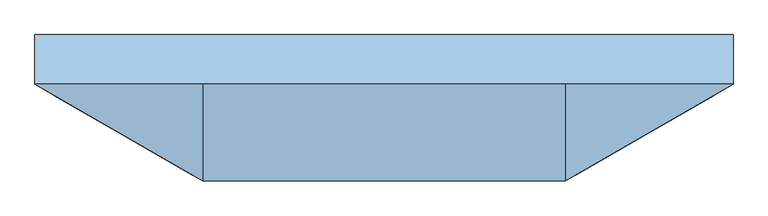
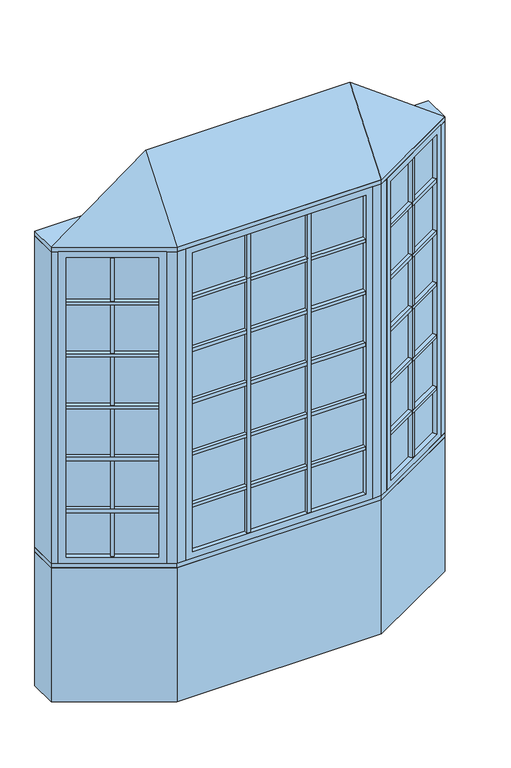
"""IFC4 building model written with IfcOpenShell, lengths in millimetres: window geometry, Pollard_Windows_Tudor Casement Bows and Bays : AML-BAY 30 AFR0618-10-500_GC."""

from ifc_helpers import new_model, si_unit, frame, origin, origin_with_axes, place, context, project, spatial, polyline, outline, extrude, faceted_brep, source, transform, mapped, element, save


def window_b6a6f03b(model_context):
    return source(origin(), model_context, "Body", "SolidModel", [
        extrude(outline(polyline([(632.2305346, -327.3537343), (621.2305346, -308.3011754), (1002.1135794, -88.3982469), (1013.1135794, -107.4508058), (632.2305346, -327.3537343)])), frame((0.0, 0.0, 1690.998), z_axis=(0.0, 0.0, 1.0), x_axis=(1.0, 0.0, 0.0)), (0.0, 0.0, 1.0), 18.0),
        extrude(outline(polyline([(618.6905346, -303.9017664), (607.6905346, -284.8492075), (988.5735794, -64.946279), (999.5735794, -83.9988379), (618.6905346, -303.9017664)])), frame((0.0, 0.0, 1690.998), z_axis=(0.0, 0.0, 1.0), x_axis=(1.0, 0.0, 0.0)), (0.0, 0.0, 1.0), 18.0),
        extrude(outline(polyline([(632.2305346, -327.3537343), (621.2305346, -308.3011754), (1002.1135794, -88.3982469), (1013.1135794, -107.4508058), (632.2305346, -327.3537343)])), frame((0.0, 0.0, 1090.998), z_axis=(0.0, 0.0, 1.0), x_axis=(1.0, 0.0, 0.0)), (0.0, 0.0, 1.0), 18.0),
        extrude(outline(polyline([(618.6905346, -303.9017664), (607.6905346, -284.8492075), (988.5735794, -64.946279), (999.5735794, -83.9988379), (618.6905346, -303.9017664)])), frame((0.0, 0.0, 1090.998), z_axis=(0.0, 0.0, 1.0), x_axis=(1.0, 0.0, 0.0)), (0.0, 0.0, 1.0), 18.0),
        extrude(outline(polyline([(632.2305346, -327.3537343), (621.2305346, -308.3011754), (1002.1135794, -88.3982469), (1013.1135794, -107.4508058), (632.2305346, -327.3537343)])), frame((0.0, 0.0, 1390.998), z_axis=(0.0, 0.0, 1.0), x_axis=(1.0, 0.0, 0.0)), (0.0, 0.0, 1.0), 18.0),
        extrude(outline(polyline([(618.6905346, -303.9017664), (607.6905346, -284.8492075), (988.5735794, -64.946279), (999.5735794, -83.9988379), (618.6905346, -303.9017664)])), frame((0.0, 0.0, 1390.998), z_axis=(0.0, 0.0, 1.0), x_axis=(1.0, 0.0, 0.0)), (0.0, 0.0, 1.0), 18.0),
        extrude(outline(polyline([(632.2305346, -327.3537343), (621.2305346, -308.3011754), (1002.1135794, -88.3982469), (1013.1135794, -107.4508058), (632.2305346, -327.3537343)])), frame((0.0, 0.0, 1990.998), z_axis=(0.0, 0.0, 1.0), x_axis=(1.0, 0.0, 0.0)), (0.0, 0.0, 1.0), 18.0),
        extrude(outline(polyline([(618.6905346, -303.9017664), (607.6905346, -284.8492075), (988.5735794, -64.946279), (999.5735794, -83.9988379), (618.6905346, -303.9017664)])), frame((0.0, 0.0, 1990.998), z_axis=(0.0, 0.0, 1.0), x_axis=(1.0, 0.0, 0.0)), (0.0, 0.0, 1.0), 18.0),
        extrude(outline(polyline([(632.2305346, -327.3537343), (621.2305346, -308.3011754), (1002.1135794, -88.3982469), (1013.1135794, -107.4508058), (632.2305346, -327.3537343)])), frame((0.0, 0.0, 2290.998), z_axis=(0.0, 0.0, 1.0), x_axis=(1.0, 0.0, 0.0)), (0.0, 0.0, 1.0), 18.0),
        extrude(outline(polyline([(618.6905346, -303.9017664), (607.6905346, -284.8492075), (988.5735794, -64.946279), (999.5735794, -83.9988379), (618.6905346, -303.9017664)])), frame((0.0, 0.0, 2290.998), z_axis=(0.0, 0.0, 1.0), x_axis=(1.0, 0.0, 0.0)), (0.0, 0.0, 1.0), 18.0),
        extrude(outline(polyline([(819.4662856, -193.8497112), (830.4662856, -212.9022701), (814.8778284, -221.9022701), (803.8778284, -202.8497112), (819.4662856, -193.8497112)])), frame((0.0, 0.0, 835.8628), z_axis=(0.0, 0.0, 1.0), x_axis=(1.0, 0.0, 0.0)), (0.0, 0.0, 1.0), 1728.2704),
        extrude(outline(polyline([(816.9262856, -189.4503021), (801.3378284, -198.4503021), (790.3378284, -179.3977432), (805.9262856, -170.3977432), (816.9262856, -189.4503021)])), frame((0.0, 0.0, 835.8628), z_axis=(0.0, 0.0, 1.0), x_axis=(1.0, 0.0, 0.0)), (0.0, 0.0, 1.0), 1728.2704),
        extrude(outline(polyline([(1013.112102, -82.0482469), (610.2320119, -314.6511754), (607.6920119, -310.2517664), (1010.572102, -77.6488379), (1013.112102, -82.0482469)])), frame((0.0, 0.0, 823.1628), z_axis=(0.0, 0.0, 1.0), x_axis=(1.0, 0.0, 0.0)), (0.0, 0.0, 1.0), 1753.6704),
        faceted_brep([(1002.1135794, -88.3982469, 835.8628), (1014.8135794, -110.3952922, 835.8628), (1014.8135794, -110.3952922, 2564.1332), (1002.1135794, -88.3982469, 2564.1332), (1010.572102, -77.6488379, 823.1628), (1013.112102, -82.0482469, 823.1628), (1013.112102, -82.0482469, 2576.8332), (1010.572102, -77.6488379, 2576.8332), (986.8735794, -62.0017926, 835.8628), (999.5735794, -83.9988379, 835.8628), (999.5735794, -83.9988379, 2564.1332), (986.8735794, -62.0017926, 2564.1332), (1045.8734073, -92.4628922, 799.998), (1017.9334073, -44.0693926, 799.998), (1017.9334073, -44.0693926, 2599.998), (1045.8734073, -92.4628922, 2599.998), (633.9305346, -330.2982207, 2564.1332), (621.2305346, -308.3011754, 2564.1332), (610.2320119, -314.6511754, 2576.8332), (607.6920119, -310.2517664, 2576.8332), (618.6905346, -303.9017664, 2564.1332), (605.9905346, -281.9047211, 2564.1332), (574.9307067, -299.8371211, 2599.998), (602.8707067, -348.2306207, 2599.998), (633.9305346, -330.2982207, 835.8628), (621.2305346, -308.3011754, 835.8628), (610.2320119, -314.6511754, 823.1628), (607.6920119, -310.2517664, 823.1628), (618.6905346, -303.9017664, 835.8628), (605.9905346, -281.9047211, 835.8628), (574.9307067, -299.8371211, 799.998), (602.8707067, -348.2306207, 799.998)], [[[0, 1, 2, 3]], [[4, 5, 6, 7]], [[8, 9, 10, 11]], [[12, 13, 14, 15]], [[3, 2, 16, 17]], [[7, 6, 18, 19]], [[11, 10, 20, 21]], [[15, 14, 22, 23]], [[17, 16, 24, 25]], [[19, 18, 26, 27]], [[21, 20, 28, 29]], [[23, 22, 30, 31]], [[25, 24, 1, 0]], [[5, 26, 18, 6], [3, 17, 25, 0]], [[27, 26, 5, 4]], [[7, 19, 27, 4], [9, 28, 20, 10]], [[29, 28, 9, 8]], [[13, 30, 22, 14], [11, 21, 29, 8]], [[31, 30, 13, 12]], [[15, 23, 31, 12], [1, 24, 16, 2]]]),
        extrude(outline(polyline([(174.1350122, -347.8306207), (174.1350122, -369.8306207), (156.1350122, -369.8306207), (156.1350122, -347.8306207), (174.1350122, -347.8306207)])), frame((0.0, 0.0, 835.8628), z_axis=(0.0, 0.0, 1.0), x_axis=(1.0, 0.0, 0.0)), (0.0, 0.0, 1.0), 1728.2704),
        extrude(outline(polyline([(174.1350122, -342.7506207), (156.1350122, -342.7506207), (156.1350122, -320.7506207), (174.1350122, -320.7506207), (174.1350122, -342.7506207)])), frame((0.0, 0.0, 835.8628), z_axis=(0.0, 0.0, 1.0), x_axis=(1.0, 0.0, 0.0)), (0.0, 0.0, 1.0), 1728.2704),
        extrude(outline(polyline([(-156.1350122, -347.8306207), (-156.1350122, -369.8306207), (-174.1350122, -369.8306207), (-174.1350122, -347.8306207), (-156.1350122, -347.8306207)])), frame((0.0, 0.0, 835.8628), z_axis=(0.0, 0.0, 1.0), x_axis=(1.0, 0.0, 0.0)), (0.0, 0.0, 1.0), 1728.2704),
        extrude(outline(polyline([(-156.1350122, -342.7506207), (-174.1350122, -342.7506207), (-174.1350122, -320.7506207), (-156.1350122, -320.7506207), (-156.1350122, -342.7506207)])), frame((0.0, 0.0, 835.8628), z_axis=(0.0, 0.0, 1.0), x_axis=(1.0, 0.0, 0.0)), (0.0, 0.0, 1.0), 1728.2704),
        extrude(outline(polyline([(-473.7046365, -369.8306207), (-473.7046365, -347.8306207), (473.7046365, -347.8306207), (473.7046365, -369.8306207), (-473.7046365, -369.8306207)])), frame((0.0, 0.0, 1090.998), z_axis=(0.0, 0.0, 1.0), x_axis=(1.0, 0.0, 0.0)), (0.0, 0.0, 1.0), 18.0),
        extrude(outline(polyline([(-473.7046365, -342.7506207), (-473.7046365, -320.7506207), (473.7046365, -320.7506207), (473.7046365, -342.7506207), (-473.7046365, -342.7506207)])), frame((0.0, 0.0, 1090.998), z_axis=(0.0, 0.0, 1.0), x_axis=(1.0, 0.0, 0.0)), (0.0, 0.0, 1.0), 18.0),
        extrude(outline(polyline([(-473.7046365, -369.8306207), (-473.7046365, -347.8306207), (473.7046365, -347.8306207), (473.7046365, -369.8306207), (-473.7046365, -369.8306207)])), frame((0.0, 0.0, 1390.998), z_axis=(0.0, 0.0, 1.0), x_axis=(1.0, 0.0, 0.0)), (0.0, 0.0, 1.0), 18.0),
        extrude(outline(polyline([(-473.7046365, -342.7506207), (-473.7046365, -320.7506207), (473.7046365, -320.7506207), (473.7046365, -342.7506207), (-473.7046365, -342.7506207)])), frame((0.0, 0.0, 1390.998), z_axis=(0.0, 0.0, 1.0), x_axis=(1.0, 0.0, 0.0)), (0.0, 0.0, 1.0), 18.0),
        extrude(outline(polyline([(-473.7046365, -369.8306207), (-473.7046365, -347.8306207), (473.7046365, -347.8306207), (473.7046365, -369.8306207), (-473.7046365, -369.8306207)])), frame((0.0, 0.0, 1690.998), z_axis=(0.0, 0.0, 1.0), x_axis=(1.0, 0.0, 0.0)), (0.0, 0.0, 1.0), 18.0),
        extrude(outline(polyline([(-473.7046365, -342.7506207), (-473.7046365, -320.7506207), (473.7046365, -320.7506207), (473.7046365, -342.7506207), (-473.7046365, -342.7506207)])), frame((0.0, 0.0, 1690.998), z_axis=(0.0, 0.0, 1.0), x_axis=(1.0, 0.0, 0.0)), (0.0, 0.0, 1.0), 18.0),
        extrude(outline(polyline([(-473.7046365, -369.8306207), (-473.7046365, -347.8306207), (473.7046365, -347.8306207), (473.7046365, -369.8306207), (-473.7046365, -369.8306207)])), frame((0.0, 0.0, 1990.998), z_axis=(0.0, 0.0, 1.0), x_axis=(1.0, 0.0, 0.0)), (0.0, 0.0, 1.0), 18.0),
        extrude(outline(polyline([(-473.7046365, -342.7506207), (-473.7046365, -320.7506207), (473.7046365, -320.7506207), (473.7046365, -342.7506207), (-473.7046365, -342.7506207)])), frame((0.0, 0.0, 1990.998), z_axis=(0.0, 0.0, 1.0), x_axis=(1.0, 0.0, 0.0)), (0.0, 0.0, 1.0), 18.0),
        extrude(outline(polyline([(-1013.1135794, -107.4508058), (-1002.1135794, -88.3982469), (-621.2305346, -308.3011754), (-632.2305346, -327.3537343), (-1013.1135794, -107.4508058)])), frame((0.0, 0.0, 1090.998), z_axis=(0.0, 0.0, 1.0), x_axis=(1.0, 0.0, 0.0)), (0.0, 0.0, 1.0), 18.0),
        extrude(outline(polyline([(-999.5735794, -83.9988379), (-988.5735794, -64.946279), (-607.6905346, -284.8492075), (-618.6905346, -303.9017664), (-999.5735794, -83.9988379)])), frame((0.0, 0.0, 1090.998), z_axis=(0.0, 0.0, 1.0), x_axis=(1.0, 0.0, 0.0)), (0.0, 0.0, 1.0), 18.0),
        extrude(outline(polyline([(-1013.1135794, -107.4508058), (-1002.1135794, -88.3982469), (-621.2305346, -308.3011754), (-632.2305346, -327.3537343), (-1013.1135794, -107.4508058)])), frame((0.0, 0.0, 1390.998), z_axis=(0.0, 0.0, 1.0), x_axis=(1.0, 0.0, 0.0)), (0.0, 0.0, 1.0), 18.0),
        extrude(outline(polyline([(-999.5735794, -83.9988379), (-988.5735794, -64.946279), (-607.6905346, -284.8492075), (-618.6905346, -303.9017664), (-999.5735794, -83.9988379)])), frame((0.0, 0.0, 1390.998), z_axis=(0.0, 0.0, 1.0), x_axis=(1.0, 0.0, 0.0)), (0.0, 0.0, 1.0), 18.0),
        extrude(outline(polyline([(-1013.1135794, -107.4508058), (-1002.1135794, -88.3982469), (-621.2305346, -308.3011754), (-632.2305346, -327.3537343), (-1013.1135794, -107.4508058)])), frame((0.0, 0.0, 1690.998), z_axis=(0.0, 0.0, 1.0), x_axis=(1.0, 0.0, 0.0)), (0.0, 0.0, 1.0), 18.0),
        extrude(outline(polyline([(-999.5735794, -83.9988379), (-988.5735794, -64.946279), (-607.6905346, -284.8492075), (-618.6905346, -303.9017664), (-999.5735794, -83.9988379)])), frame((0.0, 0.0, 1690.998), z_axis=(0.0, 0.0, 1.0), x_axis=(1.0, 0.0, 0.0)), (0.0, 0.0, 1.0), 18.0),
        extrude(outline(polyline([(-1013.1135794, -107.4508058), (-1002.1135794, -88.3982469), (-621.2305346, -308.3011754), (-632.2305346, -327.3537343), (-1013.1135794, -107.4508058)])), frame((0.0, 0.0, 1990.998), z_axis=(0.0, 0.0, 1.0), x_axis=(1.0, 0.0, 0.0)), (0.0, 0.0, 1.0), 18.0),
        extrude(outline(polyline([(-999.5735794, -83.9988379), (-988.5735794, -64.946279), (-607.6905346, -284.8492075), (-618.6905346, -303.9017664), (-999.5735794, -83.9988379)])), frame((0.0, 0.0, 1990.998), z_axis=(0.0, 0.0, 1.0), x_axis=(1.0, 0.0, 0.0)), (0.0, 0.0, 1.0), 18.0),
        extrude(outline(polyline([(-1013.1135794, -107.4508058), (-1002.1135794, -88.3982469), (-621.2305346, -308.3011754), (-632.2305346, -327.3537343), (-1013.1135794, -107.4508058)])), frame((0.0, 0.0, 2290.998), z_axis=(0.0, 0.0, 1.0), x_axis=(1.0, 0.0, 0.0)), (0.0, 0.0, 1.0), 18.0),
        extrude(outline(polyline([(-999.5735794, -83.9988379), (-988.5735794, -64.946279), (-607.6905346, -284.8492075), (-618.6905346, -303.9017664), (-999.5735794, -83.9988379)])), frame((0.0, 0.0, 2290.998), z_axis=(0.0, 0.0, 1.0), x_axis=(1.0, 0.0, 0.0)), (0.0, 0.0, 1.0), 18.0),
        extrude(outline(polyline([(-473.7046365, -369.8306207), (-473.7046365, -347.8306207), (473.7046365, -347.8306207), (473.7046365, -369.8306207), (-473.7046365, -369.8306207)])), frame((0.0, 0.0, 2290.998), z_axis=(0.0, 0.0, 1.0), x_axis=(1.0, 0.0, 0.0)), (0.0, 0.0, 1.0), 18.0),
        extrude(outline(polyline([(-473.7046365, -342.7506207), (-473.7046365, -320.7506207), (473.7046365, -320.7506207), (473.7046365, -342.7506207), (-473.7046365, -342.7506207)])), frame((0.0, 0.0, 2290.998), z_axis=(0.0, 0.0, 1.0), x_axis=(1.0, 0.0, 0.0)), (0.0, 0.0, 1.0), 18.0),
        extrude(outline(polyline([(-803.8778284, -202.8497112), (-814.8778284, -221.9022701), (-830.4662856, -212.9022701), (-819.4662856, -193.8497112), (-803.8778284, -202.8497112)])), frame((0.0, 0.0, 835.8628), z_axis=(0.0, 0.0, 1.0), x_axis=(1.0, 0.0, 0.0)), (0.0, 0.0, 1.0), 1728.2704),
        extrude(outline(polyline([(-801.3378284, -198.4503021), (-816.9262856, -189.4503021), (-805.9262856, -170.3977432), (-790.3378284, -179.3977432), (-801.3378284, -198.4503021)])), frame((0.0, 0.0, 835.8628), z_axis=(0.0, 0.0, 1.0), x_axis=(1.0, 0.0, 0.0)), (0.0, 0.0, 1.0), 1728.2704),
        extrude(outline(polyline([(-610.2320119, -314.6511754), (-1013.112102, -82.0482469), (-1010.572102, -77.6488379), (-607.6920119, -310.2517664), (-610.2320119, -314.6511754)])), frame((0.0, 0.0, 823.1628), z_axis=(0.0, 0.0, 1.0), x_axis=(1.0, 0.0, 0.0)), (0.0, 0.0, 1.0), 1753.6704),
        faceted_brep([(-618.6905346, -303.9017664, 2564.1332), (-605.9905346, -281.9047211, 2564.1332), (-605.9905346, -281.9047211, 835.8628), (-618.6905346, -303.9017664, 835.8628), (-610.2320119, -314.6511754, 2576.8332), (-607.6920119, -310.2517664, 2576.8332), (-607.6920119, -310.2517664, 823.1628), (-610.2320119, -314.6511754, 823.1628), (-633.9305346, -330.2982207, 2564.1332), (-621.2305346, -308.3011754, 2564.1332), (-621.2305346, -308.3011754, 835.8628), (-633.9305346, -330.2982207, 835.8628), (-574.9307067, -299.8371211, 2599.998), (-602.8707067, -348.2306207, 2599.998), (-602.8707067, -348.2306207, 799.998), (-574.9307067, -299.8371211, 799.998), (-986.8735794, -62.0017926, 835.8628), (-999.5735794, -83.9988379, 835.8628), (-1010.572102, -77.6488379, 823.1628), (-1013.112102, -82.0482469, 823.1628), (-1002.1135794, -88.3982469, 835.8628), (-1014.8135794, -110.3952922, 835.8628), (-1045.8734073, -92.4628922, 799.998), (-1017.9334073, -44.0693926, 799.998), (-986.8735794, -62.0017926, 2564.1332), (-999.5735794, -83.9988379, 2564.1332), (-1010.572102, -77.6488379, 2576.8332), (-1013.112102, -82.0482469, 2576.8332), (-1002.1135794, -88.3982469, 2564.1332), (-1014.8135794, -110.3952922, 2564.1332), (-1045.8734073, -92.4628922, 2599.998), (-1017.9334073, -44.0693926, 2599.998)], [[[0, 1, 2, 3]], [[4, 5, 6, 7]], [[8, 9, 10, 11]], [[12, 13, 14, 15]], [[3, 2, 16, 17]], [[7, 6, 18, 19]], [[11, 10, 20, 21]], [[15, 14, 22, 23]], [[17, 16, 24, 25]], [[19, 18, 26, 27]], [[21, 20, 28, 29]], [[23, 22, 30, 31]], [[15, 23, 31, 12], [1, 24, 16, 2]], [[25, 24, 1, 0]], [[5, 26, 18, 6], [3, 17, 25, 0]], [[27, 26, 5, 4]], [[7, 19, 27, 4], [9, 28, 20, 10]], [[29, 28, 9, 8]], [[13, 30, 22, 14], [11, 21, 29, 8]], [[31, 30, 13, 12]]]),
        extrude(outline(polyline([(486.4046365, -347.8306207), (-486.4046365, -347.8306207), (-486.4046365, -342.7506207), (486.4046365, -342.7506207), (486.4046365, -347.8306207)])), frame((0.0, 0.0, 823.1628), z_axis=(0.0, 0.0, 1.0), x_axis=(1.0, 0.0, 0.0)), (0.0, 0.0, 1.0), 1753.6704),
        faceted_brep([(473.7046365, -347.8306207, 835.8628), (473.7046365, -373.2306207, 835.8628), (473.7046365, -373.2306207, 2564.1332), (473.7046365, -347.8306207, 2564.1332), (486.4046365, -342.7506207, 823.1628), (486.4046365, -347.8306207, 823.1628), (486.4046365, -347.8306207, 2576.8332), (486.4046365, -342.7506207, 2576.8332), (473.7046365, -317.3506207, 835.8628), (473.7046365, -342.7506207, 835.8628), (473.7046365, -342.7506207, 2564.1332), (473.7046365, -317.3506207, 2564.1332), (509.5694365, -373.2306207, 799.998), (509.5694365, -317.3506207, 799.998), (509.5694365, -317.3506207, 2599.998), (509.5694365, -373.2306207, 2599.998), (-473.7046365, -373.2306207, 2564.1332), (-473.7046365, -347.8306207, 2564.1332), (-486.4046365, -347.8306207, 2576.8332), (-486.4046365, -342.7506207, 2576.8332), (-473.7046365, -342.7506207, 2564.1332), (-473.7046365, -317.3506207, 2564.1332), (-509.5694365, -317.3506207, 2599.998), (-509.5694365, -373.2306207, 2599.998), (-473.7046365, -373.2306207, 835.8628), (-473.7046365, -347.8306207, 835.8628), (-486.4046365, -347.8306207, 823.1628), (-486.4046365, -342.7506207, 823.1628), (-473.7046365, -342.7506207, 835.8628), (-473.7046365, -317.3506207, 835.8628), (-509.5694365, -317.3506207, 799.998), (-509.5694365, -373.2306207, 799.998)], [[[0, 1, 2, 3]], [[4, 5, 6, 7]], [[8, 9, 10, 11]], [[12, 13, 14, 15]], [[3, 2, 16, 17]], [[7, 6, 18, 19]], [[11, 10, 20, 21]], [[15, 14, 22, 23]], [[17, 16, 24, 25]], [[19, 18, 26, 27]], [[21, 20, 28, 29]], [[23, 22, 30, 31]], [[15, 23, 31, 12], [1, 24, 16, 2]], [[25, 24, 1, 0]], [[5, 26, 18, 6], [3, 17, 25, 0]], [[27, 26, 5, 4]], [[7, 19, 27, 4], [9, 28, 20, 10]], [[29, 28, 9, 8]], [[13, 30, 22, 14], [11, 21, 29, 8]], [[31, 30, 13, 12]]]),
        faceted_brep([(1076.5, -74.7806207, 2625.398), (559.5694365, -373.2306207, 2625.398), (-559.5694365, -373.2306207, 2625.398), (-1076.5, -74.7806207, 2625.398), (-559.5694365, -74.7806207, 3006.398), (559.5694365, -74.7806207, 3006.398)], [[[0, 1, 2, 3]], [[3, 2, 4]], [[2, 1, 5, 4]], [[1, 0, 5]], [[0, 3, 4, 5]]]),
        extrude(outline(polyline([(-1076.5, 77.6193793), (1076.5, 77.6193793), (1076.5, -74.7806207), (559.5694365, -373.2306207), (-559.5694365, -373.2306207), (-1076.5, -74.7806207), (-1076.5, 77.6193793)])), frame((0.0, 0.0, 2599.998), z_axis=(0.0, 0.0, 1.0), x_axis=(1.0, 0.0, 0.0)), (0.0, 0.0, 1.0), 25.4),
        extrude(outline(polyline([(-1076.5, -74.7806207), (-1076.5, 77.6193793), (-1035.6645431, 77.6193793), (-1035.6645431, -74.7806207), (-1045.8734073, -92.4628922), (-1076.5, -74.7806207)])), frame((0.0, 0.0, 799.998), z_axis=(0.0, 0.0, 1.0), x_axis=(1.0, 0.0, 0.0)), (0.0, 0.0, 1.0), 1800.0),
        extrude(outline(polyline([(1076.5, 77.6193793), (1076.5, -74.7806207), (1045.8734073, -92.4628922), (1035.6645431, -74.7806207), (1035.6645431, 77.6193793), (1076.5, 77.6193793)])), frame((0.0, 0.0, 799.998), z_axis=(0.0, 0.0, 1.0), x_axis=(1.0, 0.0, 0.0)), (0.0, 0.0, 1.0), 1800.0),
        extrude(outline(polyline([(559.5694365, -373.2306207), (509.5694365, -373.2306207), (509.5694365, -323.2306207), (546.1719769, -323.2306207), (577.8707067, -304.9293505), (602.8707067, -348.2306207), (559.5694365, -373.2306207)])), frame((0.0, 0.0, 799.998), z_axis=(0.0, 0.0, 1.0), x_axis=(1.0, 0.0, 0.0)), (0.0, 0.0, 1.0), 1800.0),
        extrude(outline(polyline([(-559.5694365, -373.2306207), (-602.8707067, -348.2306207), (-577.8707067, -304.9293505), (-546.1719769, -323.2306207), (-509.5694365, -323.2306207), (-509.5694365, -373.2306207), (-559.5694365, -373.2306207)])), frame((0.0, 0.0, 799.998), z_axis=(0.0, 0.0, 1.0), x_axis=(1.0, 0.0, 0.0)), (0.0, 0.0, 1.0), 1800.0),
        extrude(outline(polyline([(-559.5694365, -373.2306207), (-1076.5, -74.7806207), (-1076.5, 77.6193793), (-1035.6645431, 77.6193793), (-518.7339796, -220.8306207), (518.7339796, -220.8306207), (1035.6645431, 77.6193793), (1076.5, 77.6193793), (1076.5, -74.7806207), (559.5694365, -373.2306207), (-559.5694365, -373.2306207)])), frame((0.0, 0.0, 774.598), z_axis=(0.0, 0.0, 1.0), x_axis=(1.0, 0.0, 0.0)), (0.0, 0.0, 1.0), 25.4),
        extrude(outline(polyline([(-1076.5, -74.7806207), (-1076.5, 77.6193793), (-1035.6645431, 77.6193793), (-518.7339796, -220.8306207), (518.7339796, -220.8306207), (1035.6645431, 77.6193793), (1076.5, 77.6193793), (1076.5, -74.7806207), (559.5694365, -373.2306207), (-559.5694365, -373.2306207), (-1076.5, -74.7806207)])), origin_with_axes(), (0.0, 0.0, 1.0), 774.598),
    ])


if __name__ == "__main__":
    model = new_model("IFC4")
    model_context = context("Model", 3, world=origin())
    ifc_project = project(units=[si_unit("LENGTHUNIT", "METRE", prefix="MILLI")], contexts=[model_context])
    site = spatial("IfcSite", under=ifc_project)
    building = spatial("IfcBuilding", under=site)
    placement = place(None, origin())
    window_shape = window_b6a6f03b(model_context)
    element("IfcWindow", 1, ObjectType="Pollard_Windows_Tudor Casement Bows and Bays : AML-BAY 30 AFR0618-10-500_GC", at=placement, inside=building, context=model_context, shape_type="MappedRepresentation", body=[
        mapped(window_shape, transform((0.0, 0.0, 0.0), x_axis=(1.0, 0.0, 0.0), y_axis=(0.0, 1.0, 0.0), z_axis=(0.0, 0.0, 1.0))),
    ])
    save(model, "model.ifc")
